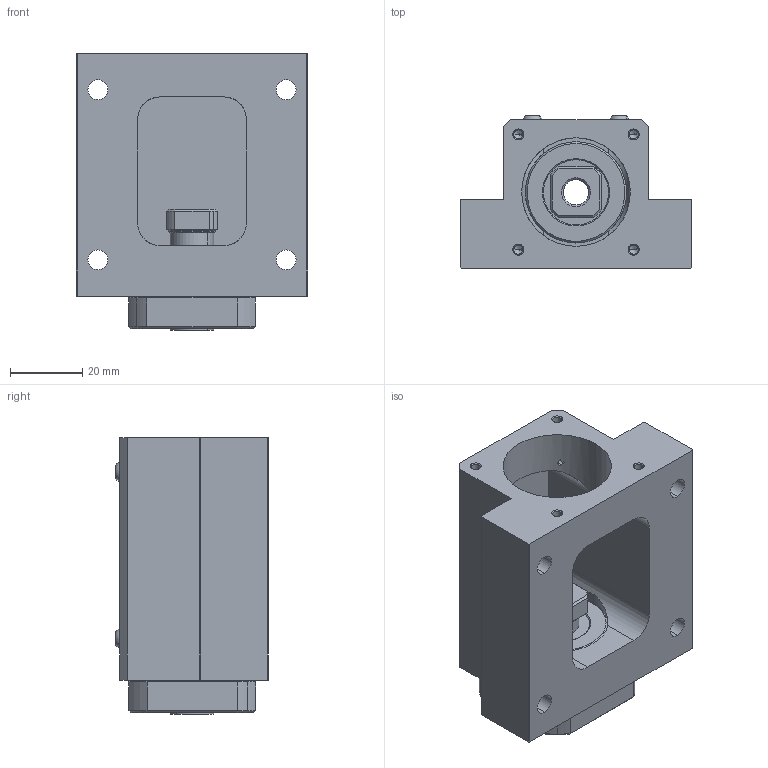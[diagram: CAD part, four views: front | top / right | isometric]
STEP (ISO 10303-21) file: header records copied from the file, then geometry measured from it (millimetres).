
FILE_DESCRIPTION (( 'STEP AP214' ), '1' );
FILE_NAME ('C-SBU-8-38.3.STEP', '2023-04-10T02:22:26', ( '' ), ( '' ), 'SwSTEP 2.0', 'SolidWorks 2021', '' );
FILE_SCHEMA (( 'AUTOMOTIVE_DESIGN' ));
Length unit declared in the file: millimetre
Products named in the file (6): socket head cap screw_ks_KS 1003 - M3 x 12 x 12-N; C-SBU-8-38.3; SJU-8 ACRYLE; M3-6; FK8-B; SJU-8-M38 HOUSING''
Assembly tree (11 placements, depth 2):
  C-SBU-8-38.3
    SJU-8-M38 HOUSING''
    FK8-B
    SJU-8 ACRYLE
    M3-6  x4
    socket head cap screw_ks_KS 1003 - M3 x 12 x 12-N  x4
Bounding box: 64 x 42.15 x 76.5 mm (x, y, z)
Volume: 90160.1 mm3; surface area: 37848.8 mm2
Topology: 11 solids, 16 shells, 607 faces, 1423 edges, 840 vertices
Faces by surface type: plane 214, cylinder 179, cone 158, torus 56
Entity records: 13872 total; most frequent: CARTESIAN_POINT 2731, DIRECTION 2375, ORIENTED_EDGE 2042, EDGE_CURVE 1021, AXIS2_PLACEMENT_3D 957, VERTEX_POINT 630, EDGE_LOOP 513, CIRCLE 504
